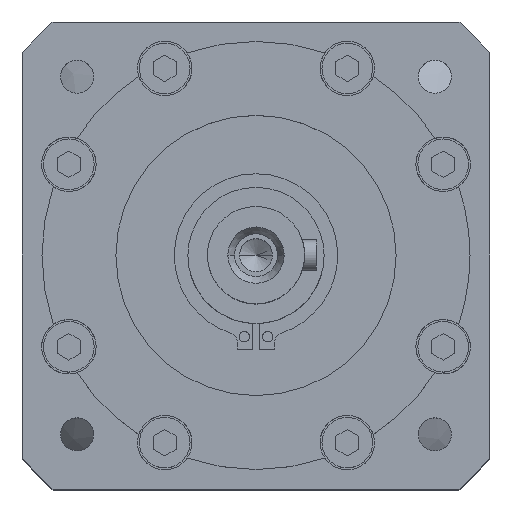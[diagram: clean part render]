
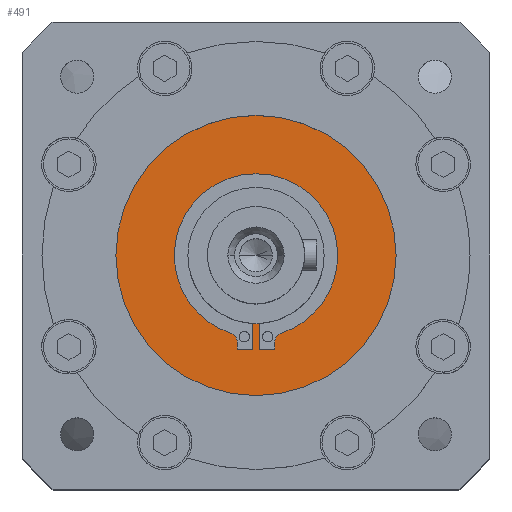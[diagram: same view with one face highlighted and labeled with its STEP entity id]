
A CAD part, top view. The second image highlights one B-rep face of the part: STEP entity #491.
In plain terms, the highlighted planar face has unit normal (0, 0, 1).
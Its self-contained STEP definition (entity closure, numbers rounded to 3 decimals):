
#194 = EDGE_CURVE ( 'NONE', #13778, #7637, #4071, .T. ) ;
#260 = VERTEX_POINT ( 'NONE', #19933 ) ;
#278 = LINE ( 'NONE', #8736, #4952 ) ;
#310 = CARTESIAN_POINT ( 'NONE',  ( -4.35, -23.779, -2.7 ) ) ;
#491 = ADVANCED_FACE ( 'NONE', ( #4898, #8980 ), #18691, .F. ) ;
#705 = EDGE_CURVE ( 'NONE', #7637, #13778, #1573, .T. ) ;
#810 = EDGE_CURVE ( 'NONE', #21269, #5181, #9807, .T. ) ;
#944 = EDGE_CURVE ( 'NONE', #11153, #22552, #2944, .T. ) ;
#1019 = AXIS2_PLACEMENT_3D ( 'NONE', #6573, #18809, #8320 ) ;
#1321 = EDGE_CURVE ( 'NONE', #15014, #12225, #16627, .T. ) ;
#1409 = EDGE_CURVE ( 'NONE', #19482, #21269, #6234, .T. ) ;
#1573 = CIRCLE ( 'NONE', #6158, 36. ) ;
#2002 = EDGE_CURVE ( 'NONE', #3380, #19482, #14569, .T. ) ;
#2043 = AXIS2_PLACEMENT_3D ( 'NONE', #310, #12556, #2067 ) ;
#2067 = DIRECTION ( 'NONE',  ( -1., 0., 0. ) ) ;
#2104 = VECTOR ( 'NONE', #13868, 1000. ) ;
#2315 = AXIS2_PLACEMENT_3D ( 'NONE', #5708, #17926, #7451 ) ;
#2577 = DIRECTION ( 'NONE',  ( 0., 0., 1. ) ) ;
#2615 = DIRECTION ( 'NONE',  ( 0., 0., 1. ) ) ;
#2694 = EDGE_CURVE ( 'NONE', #6248, #15014, #18121, .T. ) ;
#2702 = ORIENTED_EDGE ( 'NONE', *, *, #8390, .F. ) ;
#2800 = ORIENTED_EDGE ( 'NONE', *, *, #2002, .F. ) ;
#2944 = CIRCLE ( 'NONE', #1019, 0.5 ) ;
#3209 = AXIS2_PLACEMENT_3D ( 'NONE', #13097, #2615, #14854 ) ;
#3239 = EDGE_LOOP ( 'NONE', ( #22274, #8741 ) ) ;
#3380 = VERTEX_POINT ( 'NONE', #17634 ) ;
#3796 = EDGE_CURVE ( 'NONE', #12225, #3380, #278, .T. ) ;
#3873 = EDGE_CURVE ( 'NONE', #12186, #10486, #9047, .T. ) ;
#4071 = CIRCLE ( 'NONE', #2315, 36. ) ;
#4105 = AXIS2_PLACEMENT_3D ( 'NONE', #20420, #9929, #22191 ) ;
#4482 = EDGE_CURVE ( 'NONE', #5181, #12186, #22461, .T. ) ;
#4735 = CARTESIAN_POINT ( 'NONE',  ( 0., 0., -2.7 ) ) ;
#4772 = DIRECTION ( 'NONE',  ( -1., 0., 0. ) ) ;
#4898 = FACE_OUTER_BOUND ( 'NONE', #3239, .T. ) ;
#4952 = VECTOR ( 'NONE', #7057, 1000. ) ;
#5078 = EDGE_CURVE ( 'NONE', #10486, #11153, #14743, .T. ) ;
#5102 = ORIENTED_EDGE ( 'NONE', *, *, #2694, .F. ) ;
#5175 = CIRCLE ( 'NONE', #8551, 21. ) ;
#5181 = VERTEX_POINT ( 'NONE', #22462 ) ;
#5308 = ORIENTED_EDGE ( 'NONE', *, *, #810, .F. ) ;
#5460 = EDGE_CURVE ( 'NONE', #13093, #20611, #5175, .T. ) ;
#5708 = CARTESIAN_POINT ( 'NONE',  ( 0., 0., -2.7 ) ) ;
#5718 = ORIENTED_EDGE ( 'NONE', *, *, #18386, .F. ) ;
#5981 = CARTESIAN_POINT ( 'NONE',  ( -4.85, -22.321, -2.7 ) ) ;
#6049 = CARTESIAN_POINT ( 'NONE',  ( -0.85, -24.279, -2.7 ) ) ;
#6158 = AXIS2_PLACEMENT_3D ( 'NONE', #7500, #19740, #9264 ) ;
#6234 = LINE ( 'NONE', #6919, #2104 ) ;
#6248 = VERTEX_POINT ( 'NONE', #9443 ) ;
#6408 = EDGE_LOOP ( 'NONE', ( #5308, #19889, #2800, #9615, #14089, #5102, #8331, #6547, #2702, #5718, #14241, #15383, #10659, #17610 ) ) ;
#6486 = DIRECTION ( 'NONE',  ( -1., 0., 0. ) ) ;
#6547 = ORIENTED_EDGE ( 'NONE', *, *, #5460, .F. ) ;
#6573 = CARTESIAN_POINT ( 'NONE',  ( 4.35, -23.779, -2.7 ) ) ;
#6919 = CARTESIAN_POINT ( 'NONE',  ( -0.85, -24.279, -2.7 ) ) ;
#7057 = DIRECTION ( 'NONE',  ( 0., -1., 0. ) ) ;
#7276 = DIRECTION ( 'NONE',  ( 0., -1., 0. ) ) ;
#7451 = DIRECTION ( 'NONE',  ( -1., 0., 0. ) ) ;
#7500 = CARTESIAN_POINT ( 'NONE',  ( 0., 0., -2.7 ) ) ;
#7637 = VERTEX_POINT ( 'NONE', #16076 ) ;
#7945 = VECTOR ( 'NONE', #7276, 1000. ) ;
#8320 = DIRECTION ( 'NONE',  ( 1., 0., 0. ) ) ;
#8331 = ORIENTED_EDGE ( 'NONE', *, *, #17206, .F. ) ;
#8390 = EDGE_CURVE ( 'NONE', #260, #13093, #21845, .T. ) ;
#8467 = CARTESIAN_POINT ( 'NONE',  ( -6.568, -19.946, -2.7 ) ) ;
#8551 = AXIS2_PLACEMENT_3D ( 'NONE', #13062, #2577, #14817 ) ;
#8736 = CARTESIAN_POINT ( 'NONE',  ( -4.85, -23.779, -2.7 ) ) ;
#8741 = ORIENTED_EDGE ( 'NONE', *, *, #705, .T. ) ;
#8980 = FACE_BOUND ( 'NONE', #6408, .T. ) ;
#9047 = LINE ( 'NONE', #17758, #7945 ) ;
#9245 = CARTESIAN_POINT ( 'NONE',  ( 0., 0., -2.7 ) ) ;
#9264 = DIRECTION ( 'NONE',  ( -1., 0., 0. ) ) ;
#9266 = CARTESIAN_POINT ( 'NONE',  ( 0.85, -17.479, -2.7 ) ) ;
#9443 = CARTESIAN_POINT ( 'NONE',  ( -21., 0., -2.7 ) ) ;
#9615 = ORIENTED_EDGE ( 'NONE', *, *, #3796, .F. ) ;
#9704 = CARTESIAN_POINT ( 'NONE',  ( 21., 0., -2.7 ) ) ;
#9807 = LINE ( 'NONE', #6049, #18574 ) ;
#9929 = DIRECTION ( 'NONE',  ( 0., 0., -1. ) ) ;
#9964 = CARTESIAN_POINT ( 'NONE',  ( 0., 0., -2.7 ) ) ;
#10002 = AXIS2_PLACEMENT_3D ( 'NONE', #10303, #22554, #12035 ) ;
#10115 = AXIS2_PLACEMENT_3D ( 'NONE', #9964, #15227, #4772 ) ;
#10303 = CARTESIAN_POINT ( 'NONE',  ( 7.35, -22.321, -2.7 ) ) ;
#10311 = AXIS2_PLACEMENT_3D ( 'NONE', #4735, #16974, #6486 ) ;
#10486 = VERTEX_POINT ( 'NONE', #14722 ) ;
#10573 = AXIS2_PLACEMENT_3D ( 'NONE', #9245, #21514, #11004 ) ;
#10659 = ORIENTED_EDGE ( 'NONE', *, *, #3873, .F. ) ;
#11004 = DIRECTION ( 'NONE',  ( -1., 0., 0. ) ) ;
#11153 = VERTEX_POINT ( 'NONE', #18752 ) ;
#11818 = CARTESIAN_POINT ( 'NONE',  ( 6.568, -19.946, -2.7 ) ) ;
#12035 = DIRECTION ( 'NONE',  ( 1., 0., 0. ) ) ;
#12170 = VECTOR ( 'NONE', #13863, 1000. ) ;
#12186 = VERTEX_POINT ( 'NONE', #9266 ) ;
#12225 = VERTEX_POINT ( 'NONE', #5981 ) ;
#12556 = DIRECTION ( 'NONE',  ( 0., 0., 1. ) ) ;
#12632 = CARTESIAN_POINT ( 'NONE',  ( 4.85, -23.779, -2.7 ) ) ;
#13062 = CARTESIAN_POINT ( 'NONE',  ( 0., 0., -2.7 ) ) ;
#13093 = VERTEX_POINT ( 'NONE', #11818 ) ;
#13097 = CARTESIAN_POINT ( 'NONE',  ( 0., 0., -2.7 ) ) ;
#13397 = DIRECTION ( 'NONE',  ( 1., 0., 0. ) ) ;
#13778 = VERTEX_POINT ( 'NONE', #19442 ) ;
#13863 = DIRECTION ( 'NONE',  ( 0., 1., 0. ) ) ;
#13868 = DIRECTION ( 'NONE',  ( 1., 0., 0. ) ) ;
#14089 = ORIENTED_EDGE ( 'NONE', *, *, #1321, .F. ) ;
#14241 = ORIENTED_EDGE ( 'NONE', *, *, #944, .F. ) ;
#14569 = CIRCLE ( 'NONE', #2043, 0.5 ) ;
#14678 = CIRCLE ( 'NONE', #3209, 21. ) ;
#14722 = CARTESIAN_POINT ( 'NONE',  ( 0.85, -24.279, -2.7 ) ) ;
#14743 = LINE ( 'NONE', #16865, #20525 ) ;
#14817 = DIRECTION ( 'NONE',  ( -1., 0., 0. ) ) ;
#14854 = DIRECTION ( 'NONE',  ( -1., 0., 0. ) ) ;
#15014 = VERTEX_POINT ( 'NONE', #8467 ) ;
#15227 = DIRECTION ( 'NONE',  ( 0., 0., -1. ) ) ;
#15383 = ORIENTED_EDGE ( 'NONE', *, *, #5078, .F. ) ;
#15873 = CARTESIAN_POINT ( 'NONE',  ( -0.85, -24.279, -2.7 ) ) ;
#16076 = CARTESIAN_POINT ( 'NONE',  ( -36., 0., -2.7 ) ) ;
#16627 = CIRCLE ( 'NONE', #4105, 2.5 ) ;
#16843 = LINE ( 'NONE', #22630, #12170 ) ;
#16865 = CARTESIAN_POINT ( 'NONE',  ( 0.85, -24.279, -2.7 ) ) ;
#16974 = DIRECTION ( 'NONE',  ( 0., 0., 1. ) ) ;
#17206 = EDGE_CURVE ( 'NONE', #20611, #6248, #14678, .T. ) ;
#17610 = ORIENTED_EDGE ( 'NONE', *, *, #4482, .F. ) ;
#17634 = CARTESIAN_POINT ( 'NONE',  ( -4.85, -23.779, -2.7 ) ) ;
#17758 = CARTESIAN_POINT ( 'NONE',  ( 0.85, -24.279, -2.7 ) ) ;
#17926 = DIRECTION ( 'NONE',  ( 0., 0., 1. ) ) ;
#18121 = CIRCLE ( 'NONE', #10573, 21. ) ;
#18292 = DIRECTION ( 'NONE',  ( 0., 1., 0. ) ) ;
#18343 = CARTESIAN_POINT ( 'NONE',  ( -4.35, -24.279, -2.7 ) ) ;
#18386 = EDGE_CURVE ( 'NONE', #22552, #260, #16843, .T. ) ;
#18574 = VECTOR ( 'NONE', #18292, 1000. ) ;
#18691 = PLANE ( 'NONE',  #10115 ) ;
#18752 = CARTESIAN_POINT ( 'NONE',  ( 4.35, -24.279, -2.7 ) ) ;
#18809 = DIRECTION ( 'NONE',  ( 0., 0., 1. ) ) ;
#19442 = CARTESIAN_POINT ( 'NONE',  ( 36., 0., -2.7 ) ) ;
#19482 = VERTEX_POINT ( 'NONE', #18343 ) ;
#19740 = DIRECTION ( 'NONE',  ( 0., 0., 1. ) ) ;
#19889 = ORIENTED_EDGE ( 'NONE', *, *, #1409, .F. ) ;
#19933 = CARTESIAN_POINT ( 'NONE',  ( 4.85, -22.321, -2.7 ) ) ;
#20420 = CARTESIAN_POINT ( 'NONE',  ( -7.35, -22.321, -2.7 ) ) ;
#20525 = VECTOR ( 'NONE', #13397, 1000. ) ;
#20611 = VERTEX_POINT ( 'NONE', #9704 ) ;
#21269 = VERTEX_POINT ( 'NONE', #15873 ) ;
#21514 = DIRECTION ( 'NONE',  ( 0., 0., 1. ) ) ;
#21845 = CIRCLE ( 'NONE', #10002, 2.5 ) ;
#22191 = DIRECTION ( 'NONE',  ( -1., 0., 0. ) ) ;
#22274 = ORIENTED_EDGE ( 'NONE', *, *, #194, .T. ) ;
#22461 = CIRCLE ( 'NONE', #10311, 17.5 ) ;
#22462 = CARTESIAN_POINT ( 'NONE',  ( -0.85, -17.479, -2.7 ) ) ;
#22552 = VERTEX_POINT ( 'NONE', #12632 ) ;
#22554 = DIRECTION ( 'NONE',  ( 0., 0., -1. ) ) ;
#22630 = CARTESIAN_POINT ( 'NONE',  ( 4.85, -23.779, -2.7 ) ) ;
